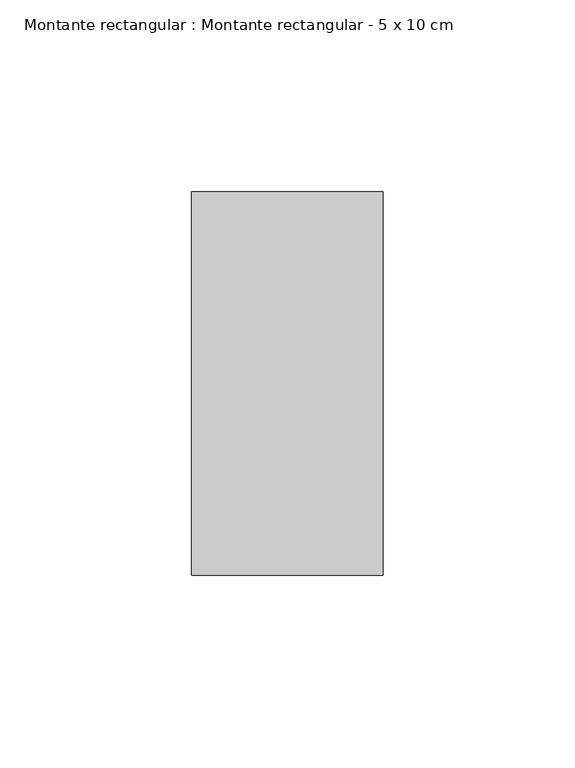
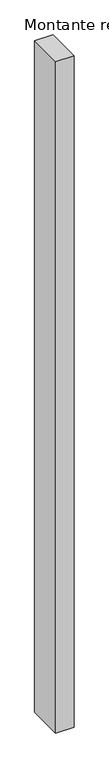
"""IFC4 building model written with IfcOpenShell, lengths in millimetres: member geometry, Montante rectangular : Montante rectangular - 5 x 10 cm."""

from ifc_helpers import new_model, si_unit, frame, origin, place, context, project, spatial, polyline, outline, extrude, source, transform, mapped, element, save


def montante_rectangular_montante_rectangular_5_x_10_cm_4a79a8cf(model_context):
    return source(origin(), model_context, "Body", "SweptSolid", [
        extrude(outline(polyline([(0.0, 50.0), (0.0, -50.0), (-50.0, -50.0), (-50.0, 50.0), (0.0, 50.0)])), frame((0.0, 0.0, -1949.1870325), z_axis=(0.0, 0.0, 1.0), x_axis=(1.0, 0.0, 0.0)), (0.0, 0.0, 1.0), 1949.1870325),
    ])


if __name__ == "__main__":
    model = new_model("IFC4")
    model_context = context("Model", 3, world=origin())
    ifc_project = project(units=[si_unit("LENGTHUNIT", "METRE", prefix="MILLI")], contexts=[model_context])
    site = spatial("IfcSite", under=ifc_project)
    building = spatial("IfcBuilding", under=site)
    placement = place(None, origin())
    montante_rectangular_montante_rectangular_5_x_10_cm_shape = montante_rectangular_montante_rectangular_5_x_10_cm_4a79a8cf(model_context)
    element("IfcMember", 1, ObjectType="Montante rectangular : Montante rectangular - 5 x 10 cm", at=placement, inside=building, context=model_context, shape_type="MappedRepresentation", body=[
        mapped(montante_rectangular_montante_rectangular_5_x_10_cm_shape, transform((0.0, 0.0, 0.0), x_axis=(1.0, 0.0, 0.0), y_axis=(0.0, 1.0, 0.0), z_axis=(0.0, 0.0, 1.0))),
    ])
    save(model, "model.ifc")
